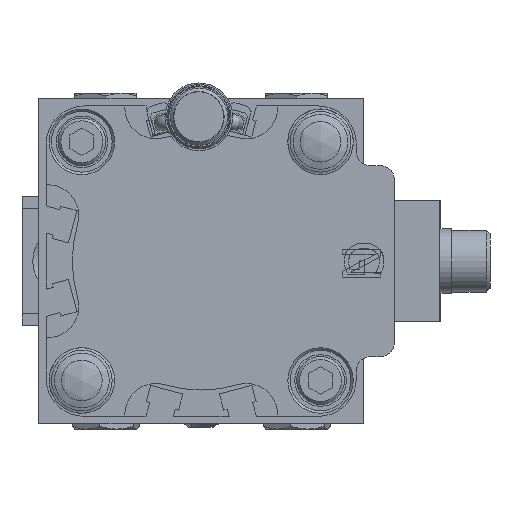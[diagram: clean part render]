
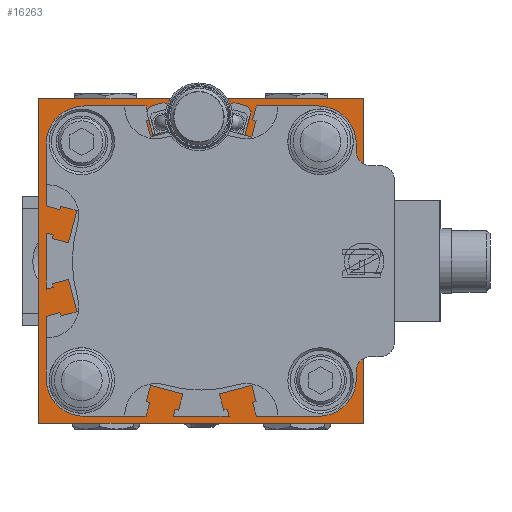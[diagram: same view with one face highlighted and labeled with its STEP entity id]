
A CAD part, left-side view. The second image highlights one B-rep face of the part: STEP entity #16263.
In plain terms, the highlighted planar face has unit normal (-1, 0, 0).
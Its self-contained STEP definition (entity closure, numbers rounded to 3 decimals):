
#1309=LINE($,#26585,#2358);
#1315=LINE($,#26608,#2364);
#1317=LINE($,#26612,#2366);
#1318=LINE($,#26614,#2367);
#2358=VECTOR($,#21091,68.);
#2364=VECTOR($,#21119,68.);
#2366=VECTOR($,#21123,68.);
#2367=VECTOR($,#21126,68.);
#3101=PLANE($,#17821);
#4128=FACE_BOUND($,#6215,.T.);
#4129=FACE_BOUND($,#6216,.T.);
#4130=FACE_BOUND($,#6217,.T.);
#4131=FACE_BOUND($,#6218,.T.);
#4132=FACE_BOUND($,#6219,.T.);
#4133=FACE_BOUND($,#6220,.T.);
#6215=EDGE_LOOP($,(#13427));
#6216=EDGE_LOOP($,(#13428));
#6217=EDGE_LOOP($,(#13429));
#6218=EDGE_LOOP($,(#13430));
#6219=EDGE_LOOP($,(#13431));
#6220=EDGE_LOOP($,(#13432,#13433,#13434,#13435));
#7564=CIRCLE($,#17760,2.459);
#7565=CIRCLE($,#17762,2.459);
#7566=CIRCLE($,#17764,2.459);
#7568=CIRCLE($,#17767,2.459);
#7588=CIRCLE($,#17806,11.113);
#8742=VERTEX_POINT($,#26500);
#8743=VERTEX_POINT($,#26503);
#8744=VERTEX_POINT($,#26506);
#8746=VERTEX_POINT($,#26511);
#8766=VERTEX_POINT($,#26570);
#8770=VERTEX_POINT($,#26582);
#8771=VERTEX_POINT($,#26584);
#8777=VERTEX_POINT($,#26606);
#8778=VERTEX_POINT($,#26610);
#10478=EDGE_CURVE($,#8742,#8742,#7564,.T.);
#10479=EDGE_CURVE($,#8743,#8743,#7565,.T.);
#10480=EDGE_CURVE($,#8744,#8744,#7566,.T.);
#10482=EDGE_CURVE($,#8746,#8746,#7568,.T.);
#10502=EDGE_CURVE($,#8766,#8766,#7588,.T.);
#10509=EDGE_CURVE($,#8771,#8770,#1309,.T.);
#10519=EDGE_CURVE($,#8770,#8777,#1315,.T.);
#10521=EDGE_CURVE($,#8778,#8777,#1317,.T.);
#10522=EDGE_CURVE($,#8778,#8771,#1318,.T.);
#13427=ORIENTED_EDGE($,*,*,#10478,.T.);
#13428=ORIENTED_EDGE($,*,*,#10479,.T.);
#13429=ORIENTED_EDGE($,*,*,#10480,.T.);
#13430=ORIENTED_EDGE($,*,*,#10482,.T.);
#13431=ORIENTED_EDGE($,*,*,#10502,.T.);
#13432=ORIENTED_EDGE($,*,*,#10519,.T.);
#13433=ORIENTED_EDGE($,*,*,#10521,.F.);
#13434=ORIENTED_EDGE($,*,*,#10522,.T.);
#13435=ORIENTED_EDGE($,*,*,#10509,.T.);
#16263=ADVANCED_FACE($,(#4128,#4129,#4130,#4131,#4132,#4133),#3101,.T.);
#17760=AXIS2_PLACEMENT_3D($,#26501,#20987,#20988);
#17762=AXIS2_PLACEMENT_3D($,#26504,#20991,#20992);
#17764=AXIS2_PLACEMENT_3D($,#26507,#20995,#20996);
#17767=AXIS2_PLACEMENT_3D($,#26512,#21001,#21002);
#17806=AXIS2_PLACEMENT_3D($,#26571,#21079,#21080);
#17821=AXIS2_PLACEMENT_3D($,#26613,#21124,#21125);
#20987=DIRECTION('center_axis',(1.,0.,0.));
#20988=DIRECTION('ref_axis',(0.,0.,1.));
#20991=DIRECTION('center_axis',(1.,0.,0.));
#20992=DIRECTION('ref_axis',(0.,0.,1.));
#20995=DIRECTION('center_axis',(1.,0.,0.));
#20996=DIRECTION('ref_axis',(0.,0.,1.));
#21001=DIRECTION('center_axis',(1.,0.,0.));
#21002=DIRECTION('ref_axis',(0.,0.,1.));
#21079=DIRECTION('center_axis',(1.,0.,0.));
#21080=DIRECTION('ref_axis',(0.,0.,1.));
#21091=DIRECTION($,(0.,0.,1.));
#21119=DIRECTION($,(0.,1.,0.));
#21123=DIRECTION($,(0.,0.,1.));
#21124=DIRECTION('center_axis',(-1.,0.,0.));
#21125=DIRECTION('ref_axis',(0.,0.,1.));
#21126=DIRECTION($,(0.,-1.,0.));
#26500=CARTESIAN_POINT('',(-19.219,14.859,11.459));
#26501=CARTESIAN_POINT('Origin',(-19.219,14.859,9.));
#26503=CARTESIAN_POINT('',(-19.219,-35.141,61.459));
#26504=CARTESIAN_POINT('Origin',(-19.219,-35.141,59.));
#26506=CARTESIAN_POINT('',(-19.219,14.859,61.459));
#26507=CARTESIAN_POINT('Origin',(-19.219,14.859,59.));
#26511=CARTESIAN_POINT('',(-19.219,-35.141,11.459));
#26512=CARTESIAN_POINT('Origin',(-19.219,-35.141,9.));
#26570=CARTESIAN_POINT('',(-19.219,-10.141,45.113));
#26571=CARTESIAN_POINT('Origin',(-19.219,-10.141,34.));
#26582=CARTESIAN_POINT('',(-19.219,-44.141,68.));
#26584=CARTESIAN_POINT('',(-19.219,-44.141,0.));
#26585=CARTESIAN_POINT($,(-19.219,-44.141,0.));
#26606=CARTESIAN_POINT('',(-19.219,23.859,68.));
#26608=CARTESIAN_POINT($,(-19.219,23.859,68.));
#26610=CARTESIAN_POINT('',(-19.219,23.859,0.));
#26612=CARTESIAN_POINT($,(-19.219,23.859,0.));
#26613=CARTESIAN_POINT('Origin',(-19.219,-44.141,0.));
#26614=CARTESIAN_POINT($,(-19.219,23.859,0.));
